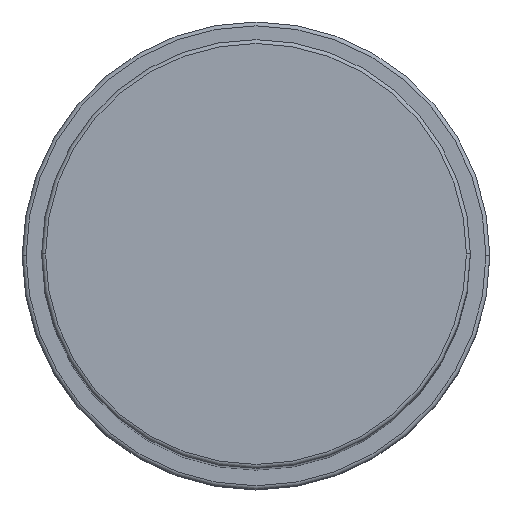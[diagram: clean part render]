
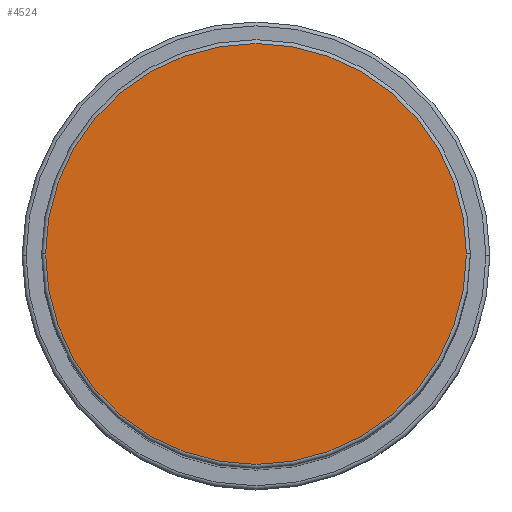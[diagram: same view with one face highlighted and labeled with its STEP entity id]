
A CAD part, top view. The second image highlights one B-rep face of the part: STEP entity #4524.
In plain terms, the highlighted planar face has unit normal (0, 0, 1).
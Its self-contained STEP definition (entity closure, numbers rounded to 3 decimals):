
#86 = PLANE ( 'NONE',  #3930 ) ;
#186 = AXIS2_PLACEMENT_3D ( 'NONE', #531, #842, #467 ) ;
#353 = ORIENTED_EDGE ( 'NONE', *, *, #3627, .T. ) ;
#467 = DIRECTION ( 'NONE',  ( 1., 0., 0. ) ) ;
#531 = CARTESIAN_POINT ( 'NONE',  ( 0., 0., 148. ) ) ;
#635 = CARTESIAN_POINT ( 'NONE',  ( 0., 0., 148. ) ) ;
#842 = DIRECTION ( 'NONE',  ( 0., 0., 1. ) ) ;
#947 = AXIS2_PLACEMENT_3D ( 'NONE', #635, #3864, #4252 ) ;
#1226 = DIRECTION ( 'NONE',  ( 1., 0., 0. ) ) ;
#1385 = EDGE_LOOP ( 'NONE', ( #4681, #353 ) ) ;
#1471 = CIRCLE ( 'NONE', #947, 27. ) ;
#2191 = FACE_OUTER_BOUND ( 'NONE', #1385, .T. ) ;
#2549 = CIRCLE ( 'NONE', #186, 27. ) ;
#2735 = CARTESIAN_POINT ( 'NONE',  ( -27., 0., 148. ) ) ;
#3018 = CARTESIAN_POINT ( 'NONE',  ( 27., 0., 148. ) ) ;
#3052 = VERTEX_POINT ( 'NONE', #2735 ) ;
#3520 = EDGE_CURVE ( 'NONE', #4942, #3052, #1471, .T. ) ;
#3627 = EDGE_CURVE ( 'NONE', #3052, #4942, #2549, .T. ) ;
#3864 = DIRECTION ( 'NONE',  ( 0., 0., 1. ) ) ;
#3930 = AXIS2_PLACEMENT_3D ( 'NONE', #4315, #4710, #1226 ) ;
#4252 = DIRECTION ( 'NONE',  ( 1., 0., 0. ) ) ;
#4315 = CARTESIAN_POINT ( 'NONE',  ( 0., 0., 148. ) ) ;
#4524 = ADVANCED_FACE ( 'NONE', ( #2191 ), #86, .T. ) ;
#4681 = ORIENTED_EDGE ( 'NONE', *, *, #3520, .T. ) ;
#4710 = DIRECTION ( 'NONE',  ( 0., 0., 1. ) ) ;
#4942 = VERTEX_POINT ( 'NONE', #3018 ) ;
